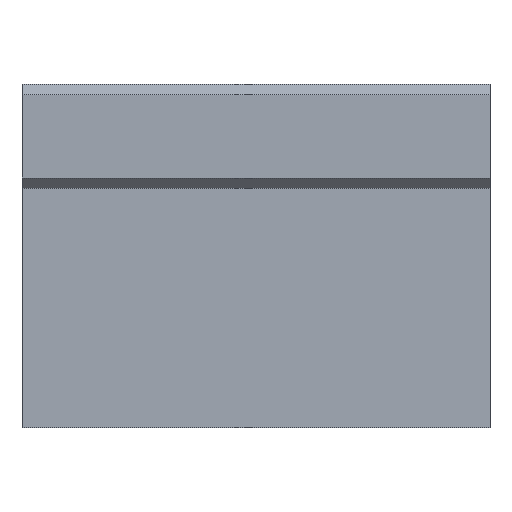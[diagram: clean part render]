
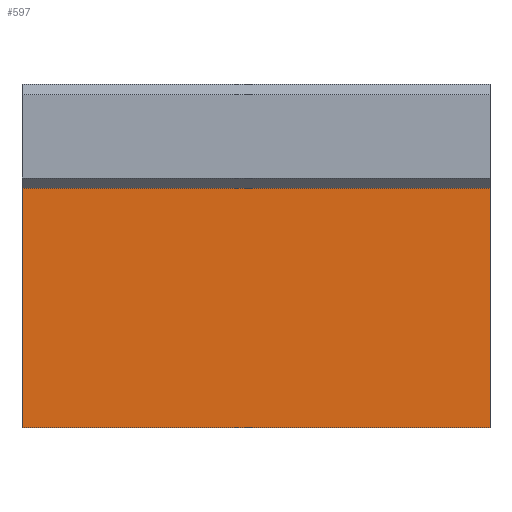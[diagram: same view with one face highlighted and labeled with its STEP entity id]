
A CAD part, front view. The second image highlights one B-rep face of the part: STEP entity #597.
In plain terms, the highlighted planar face has unit normal (0, -1, 0).
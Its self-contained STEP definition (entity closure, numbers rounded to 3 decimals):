
#38=LINE($,#920,#98);
#53=LINE($,#947,#113);
#61=LINE($,#970,#121);
#62=LINE($,#971,#122);
#98=VECTOR($,#752,45.);
#113=VECTOR($,#769,23.);
#121=VECTOR($,#795,23.);
#122=VECTOR($,#796,45.);
#149=PLANE($,#654);
#197=FACE_OUTER_BOUND($,#245,.T.);
#245=EDGE_LOOP($,(#505,#506,#507,#508));
#305=VERTEX_POINT($,#917);
#306=VERTEX_POINT($,#919);
#317=VERTEX_POINT($,#945);
#323=VERTEX_POINT($,#969);
#364=EDGE_CURVE($,#306,#305,#38,.T.);
#379=EDGE_CURVE($,#317,#305,#53,.T.);
#390=EDGE_CURVE($,#323,#306,#61,.T.);
#391=EDGE_CURVE($,#323,#317,#62,.T.);
#505=ORIENTED_EDGE($,*,*,#390,.T.);
#506=ORIENTED_EDGE($,*,*,#364,.T.);
#507=ORIENTED_EDGE($,*,*,#379,.F.);
#508=ORIENTED_EDGE($,*,*,#391,.F.);
#597=ADVANCED_FACE($,(#197),#149,.T.);
#654=AXIS2_PLACEMENT_3D($,#968,#793,#794);
#752=DIRECTION($,(1.,0.,0.));
#769=DIRECTION($,(0.,0.,-1.));
#793=DIRECTION('center_axis',(0.,-1.,0.));
#794=DIRECTION('ref_axis',(0.,0.,-1.));
#795=DIRECTION($,(0.,0.,-1.));
#796=DIRECTION($,(1.,0.,0.));
#917=CARTESIAN_POINT('',(45.,-21.,0.));
#919=CARTESIAN_POINT('',(0.,-21.,0.));
#920=CARTESIAN_POINT($,(0.,-21.,0.));
#945=CARTESIAN_POINT('',(45.,-21.,23.));
#947=CARTESIAN_POINT($,(45.,-21.,23.));
#968=CARTESIAN_POINT('Origin',(0.,-21.,23.));
#969=CARTESIAN_POINT('',(0.,-21.,23.));
#970=CARTESIAN_POINT($,(0.,-21.,23.));
#971=CARTESIAN_POINT($,(0.,-21.,23.));
